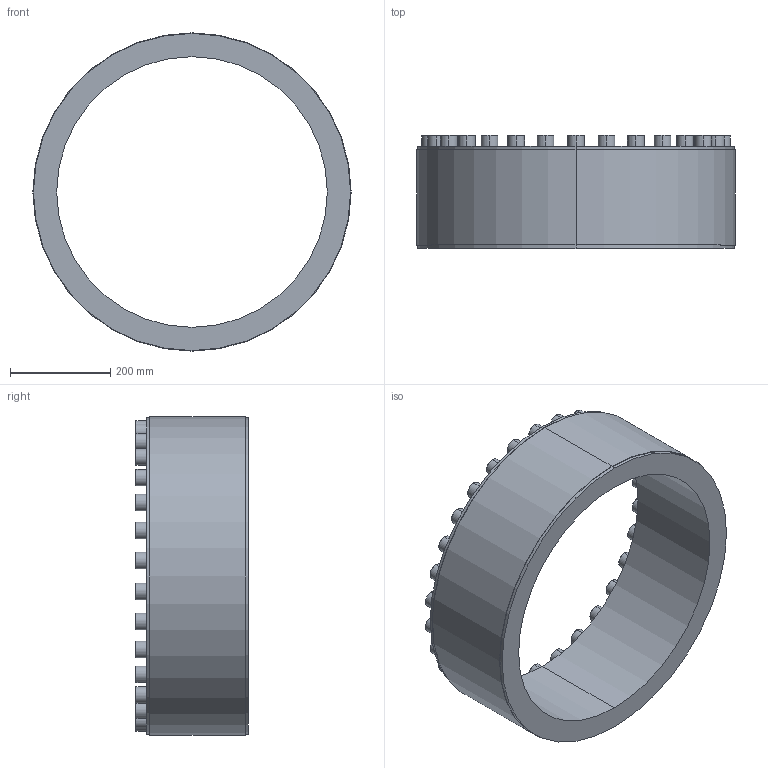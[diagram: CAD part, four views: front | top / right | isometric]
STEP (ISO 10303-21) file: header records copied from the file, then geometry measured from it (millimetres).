
FILE_DESCRIPTION (( 'STEP AP203' ), '1' );
FILE_NAME ('PL-D1 540-635.STEP', '2021-10-23T00:28:19', ( '' ), ( '' ), 'SwSTEP 2.0', 'SolidWorks 2018', '' );
FILE_SCHEMA (( 'CONFIG_CONTROL_DESIGN' ));
Length unit declared in the file: millimetre
Products named in the file (1): PL-D1 540-635
Bounding box: 635 x 225 x 635 mm (x, y, z)
Volume: 18252869.7 mm3; surface area: 1011793.6 mm2
Topology: 1 solids, 1 shells, 372 faces, 864 edges, 556 vertices
Faces by surface type: plane 244, cylinder 68, torus 60
Entity records: 10605 total; most frequent: DIRECTION 1866, CARTESIAN_POINT 1793, ORIENTED_EDGE 1728, EDGE_CURVE 864, AXIS2_PLACEMENT_3D 629, LINE 608, VECTOR 608, VERTEX_POINT 556
